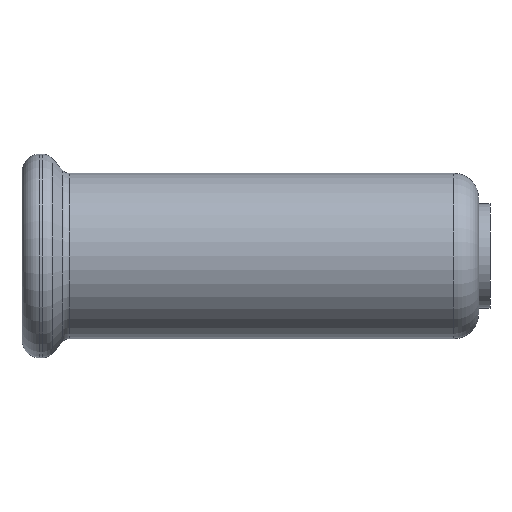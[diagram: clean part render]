
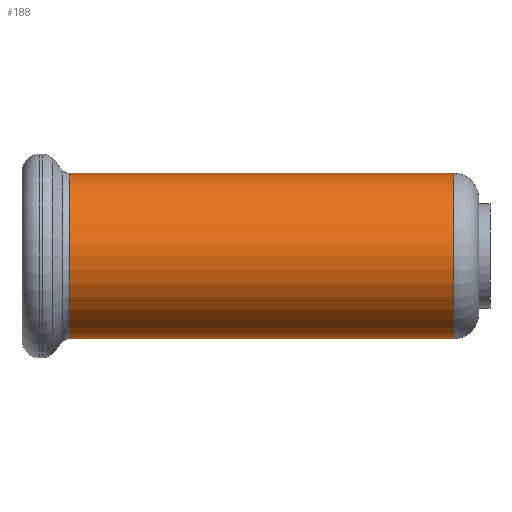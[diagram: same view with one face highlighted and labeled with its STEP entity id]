
A CAD part, front view. The second image highlights one B-rep face of the part: STEP entity #188.
In plain terms, the highlighted cylindrical face has radius 0.927 mm (diameter 1.854 mm), a full revolution.
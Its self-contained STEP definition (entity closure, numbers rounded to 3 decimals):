
#22=CYLINDRICAL_SURFACE($,#222,0.927);
#41=FACE_BOUND($,#87,.T.);
#58=FACE_OUTER_BOUND($,#86,.T.);
#86=EDGE_LOOP($,(#166));
#87=EDGE_LOOP($,(#167));
#105=CIRCLE($,#221,0.927);
#106=CIRCLE($,#223,0.927);
#121=VERTEX_POINT($,#336);
#122=VERTEX_POINT($,#339);
#137=EDGE_CURVE($,#121,#121,#105,.T.);
#138=EDGE_CURVE($,#122,#122,#106,.T.);
#166=ORIENTED_EDGE($,*,*,#138,.F.);
#167=ORIENTED_EDGE($,*,*,#137,.T.);
#188=ADVANCED_FACE($,(#58,#41),#22,.T.);
#221=AXIS2_PLACEMENT_3D($,#337,#283,#284);
#222=AXIS2_PLACEMENT_3D($,#338,#285,#286);
#223=AXIS2_PLACEMENT_3D($,#340,#287,#288);
#283=DIRECTION('center_axis',(1.,0.,0.));
#284=DIRECTION('ref_axis',(0.,1.,0.));
#285=DIRECTION('center_axis',(1.,0.,0.));
#286=DIRECTION('ref_axis',(0.,1.,0.));
#287=DIRECTION('center_axis',(1.,0.,0.));
#288=DIRECTION('ref_axis',(0.,1.,0.));
#336=CARTESIAN_POINT('',(0.528,0.927,0.));
#337=CARTESIAN_POINT('Origin',(0.528,0.,
0.));
#338=CARTESIAN_POINT('Origin',(2.685,0.,0.));
#339=CARTESIAN_POINT('',(4.841,0.927,0.));
#340=CARTESIAN_POINT('Origin',(4.841,0.,0.));
